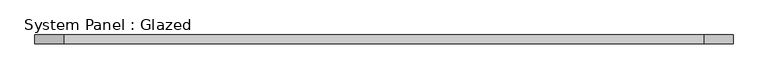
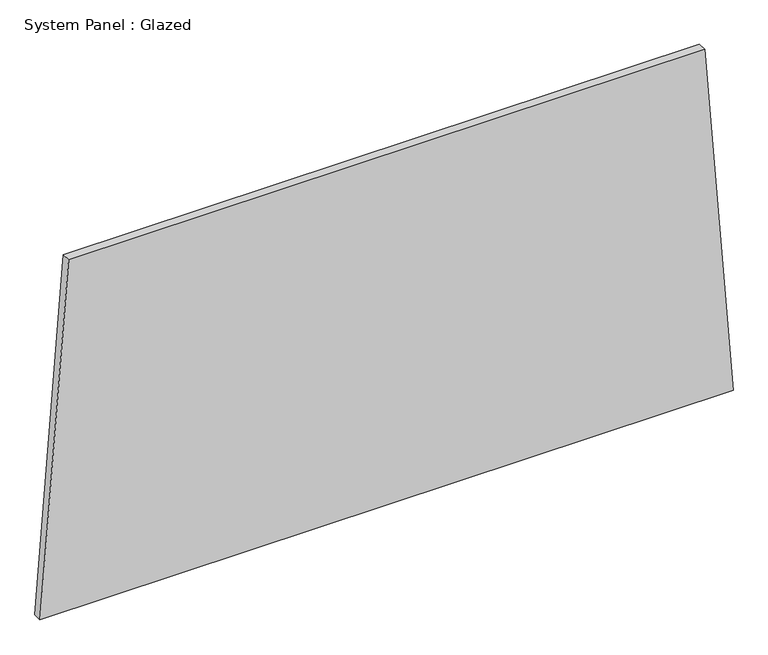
"""IFC4 building model written with IfcOpenShell, lengths in millimetres: plate geometry, System Panel : Glazed."""

from ifc_helpers import new_model, si_unit, frame, origin, place, context, project, spatial, polyline, outline, extrude, source, transform, mapped, element, save


def system_panel_glazed_7670c416(model_context):
    return source(origin(), model_context, "Body", "SweptSolid", [
        extrude(outline(polyline([(0.0, -995.1068757), (0.0, 995.1068757), (1063.6419132, 913.0817547), (1063.6419132, -913.0817547), (0.0, -995.1068757)])), frame((0.0, -49.5, 0.0), z_axis=(0.0, 1.0, 0.0), x_axis=(0.0, 0.0, 1.0)), (0.0, 0.0, 1.0), 25.0),
    ])


if __name__ == "__main__":
    model = new_model("IFC4")
    model_context = context("Model", 3, world=origin())
    ifc_project = project(units=[si_unit("LENGTHUNIT", "METRE", prefix="MILLI")], contexts=[model_context])
    site = spatial("IfcSite", under=ifc_project)
    building = spatial("IfcBuilding", under=site)
    placement = place(None, origin())
    system_panel_glazed_shape = system_panel_glazed_7670c416(model_context)
    element("IfcPlate", 1, ObjectType="System Panel : Glazed", at=placement, inside=building, context=model_context, shape_type="MappedRepresentation", body=[
        mapped(system_panel_glazed_shape, transform((0.0, 0.0, 0.0), x_axis=(1.0, 0.0, 0.0), y_axis=(0.0, 1.0, 0.0), z_axis=(0.0, 0.0, 1.0))),
    ])
    save(model, "model.ifc")
